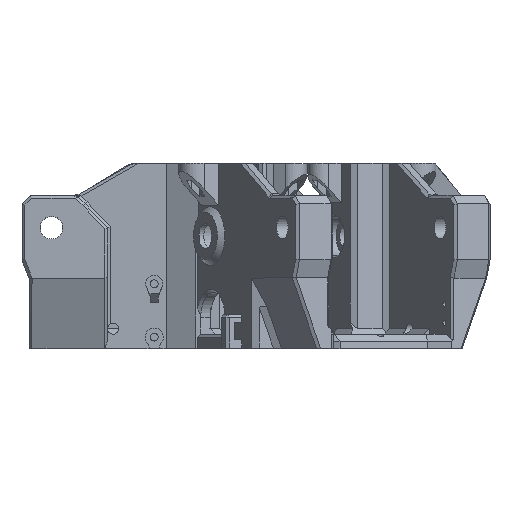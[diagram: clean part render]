
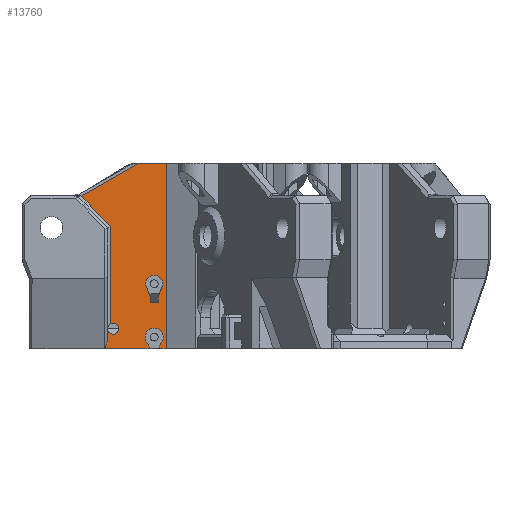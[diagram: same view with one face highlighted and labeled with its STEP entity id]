
A CAD part, top view. The second image highlights one B-rep face of the part: STEP entity #13760.
In plain terms, the highlighted planar face has unit normal (0, 0, 1).
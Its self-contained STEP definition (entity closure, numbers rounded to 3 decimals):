
#615=PLANE('',#14628);
#827=FACE_BOUND('',#2610,.T.);
#1006=CIRCLE('',#14629,2.);
#1007=CIRCLE('',#14630,3.25);
#1008=CIRCLE('',#14631,3.);
#1738=FACE_OUTER_BOUND('',#2609,.T.);
#2609=EDGE_LOOP('',(#12566,#12567,#12568,#12569,#12570,#12571,#12572,#12573,
#12574,#12575,#12576,#12577,#12578,#12579,#12580,#12581));
#2610=EDGE_LOOP('',(#12582,#12583,#12584,#12585,#12586,#12587));
#2956=LINE('',#19729,#4577);
#2960=LINE('',#19737,#4581);
#3469=LINE('',#21690,#5090);
#3688=LINE('',#22189,#5309);
#4021=LINE('',#23034,#5642);
#4025=LINE('',#23042,#5646);
#4038=LINE('',#23068,#5659);
#4065=LINE('',#23155,#5686);
#4068=LINE('',#23159,#5689);
#4286=LINE('',#23652,#5907);
#4290=LINE('',#23660,#5911);
#4294=LINE('',#23670,#5915);
#4296=LINE('',#23673,#5917);
#4297=LINE('',#23677,#5918);
#4298=LINE('',#23679,#5919);
#4299=LINE('',#23681,#5920);
#4300=LINE('',#23685,#5921);
#4301=LINE('',#23686,#5922);
#4302=LINE('',#23688,#5923);
#4577=VECTOR('',#15082,10.);
#4581=VECTOR('',#15086,10.);
#5090=VECTOR('',#15971,10.);
#5309=VECTOR('',#16400,10.);
#5642=VECTOR('',#17227,10.);
#5646=VECTOR('',#17233,10.);
#5659=VECTOR('',#17256,10.);
#5686=VECTOR('',#17301,10.);
#5689=VECTOR('',#17306,10.);
#5907=VECTOR('',#17788,10.);
#5911=VECTOR('',#17794,10.);
#5915=VECTOR('',#17804,10.);
#5917=VECTOR('',#17808,10.);
#5918=VECTOR('',#17813,10.);
#5919=VECTOR('',#17814,10.);
#5920=VECTOR('',#17815,10.);
#5921=VECTOR('',#17818,10.);
#5922=VECTOR('',#17819,10.);
#5923=VECTOR('',#17822,10.);
#6098=VERTEX_POINT('',#18324);
#6275=VERTEX_POINT('',#19726);
#6276=VERTEX_POINT('',#19728);
#6279=VERTEX_POINT('',#19734);
#6280=VERTEX_POINT('',#19736);
#6746=VERTEX_POINT('',#21687);
#6747=VERTEX_POINT('',#21689);
#7096=VERTEX_POINT('',#23031);
#7097=VERTEX_POINT('',#23033);
#7100=VERTEX_POINT('',#23041);
#7108=VERTEX_POINT('',#23067);
#7265=VERTEX_POINT('',#23649);
#7266=VERTEX_POINT('',#23651);
#7268=VERTEX_POINT('',#23657);
#7269=VERTEX_POINT('',#23659);
#7271=VERTEX_POINT('',#23667);
#7272=VERTEX_POINT('',#23669);
#7273=VERTEX_POINT('',#23675);
#7274=VERTEX_POINT('',#23678);
#7275=VERTEX_POINT('',#23680);
#7276=VERTEX_POINT('',#23682);
#7277=VERTEX_POINT('',#23684);
#7574=EDGE_CURVE('',#6276,#6275,#2956,.T.);
#7578=EDGE_CURVE('',#6280,#6279,#2960,.T.);
#8203=EDGE_CURVE('',#6747,#6746,#3469,.T.);
#8456=EDGE_CURVE('',#6747,#6275,#3688,.T.);
#8828=EDGE_CURVE('',#7096,#7097,#4021,.T.);
#8832=EDGE_CURVE('',#6280,#7100,#4025,.F.);
#8845=EDGE_CURVE('',#7097,#7108,#4038,.T.);
#8872=EDGE_CURVE('',#7108,#6098,#4065,.T.);
#8875=EDGE_CURVE('',#6098,#6746,#4068,.T.);
#9113=EDGE_CURVE('',#7266,#7265,#4286,.T.);
#9117=EDGE_CURVE('',#7269,#7268,#4290,.T.);
#9122=EDGE_CURVE('',#7272,#7271,#4294,.T.);
#9124=EDGE_CURVE('',#7265,#7269,#4296,.T.);
#9125=EDGE_CURVE('',#7096,#7273,#1006,.T.);
#9126=EDGE_CURVE('',#7273,#7100,#4297,.T.);
#9127=EDGE_CURVE('',#6279,#7274,#4298,.T.);
#9128=EDGE_CURVE('',#7274,#7275,#4299,.T.);
#9129=EDGE_CURVE('',#7275,#7276,#1007,.T.);
#9130=EDGE_CURVE('',#7276,#7277,#4300,.T.);
#9131=EDGE_CURVE('',#7277,#6276,#4301,.T.);
#9132=EDGE_CURVE('',#7268,#7272,#1008,.T.);
#9133=EDGE_CURVE('',#7271,#7266,#4302,.T.);
#12566=ORIENTED_EDGE('',*,*,#8828,.F.);
#12567=ORIENTED_EDGE('',*,*,#9125,.T.);
#12568=ORIENTED_EDGE('',*,*,#9126,.T.);
#12569=ORIENTED_EDGE('',*,*,#8832,.F.);
#12570=ORIENTED_EDGE('',*,*,#7578,.T.);
#12571=ORIENTED_EDGE('',*,*,#9127,.T.);
#12572=ORIENTED_EDGE('',*,*,#9128,.T.);
#12573=ORIENTED_EDGE('',*,*,#9129,.T.);
#12574=ORIENTED_EDGE('',*,*,#9130,.T.);
#12575=ORIENTED_EDGE('',*,*,#9131,.T.);
#12576=ORIENTED_EDGE('',*,*,#7574,.T.);
#12577=ORIENTED_EDGE('',*,*,#8456,.F.);
#12578=ORIENTED_EDGE('',*,*,#8203,.T.);
#12579=ORIENTED_EDGE('',*,*,#8875,.F.);
#12580=ORIENTED_EDGE('',*,*,#8872,.F.);
#12581=ORIENTED_EDGE('',*,*,#8845,.F.);
#12582=ORIENTED_EDGE('',*,*,#9117,.T.);
#12583=ORIENTED_EDGE('',*,*,#9132,.T.);
#12584=ORIENTED_EDGE('',*,*,#9122,.T.);
#12585=ORIENTED_EDGE('',*,*,#9133,.T.);
#12586=ORIENTED_EDGE('',*,*,#9113,.T.);
#12587=ORIENTED_EDGE('',*,*,#9124,.T.);
#13760=ADVANCED_FACE('',(#1738,#827),#615,.T.);
#14628=AXIS2_PLACEMENT_3D('',#23674,#17809,#17810);
#14629=AXIS2_PLACEMENT_3D('',#23676,#17811,#17812);
#14630=AXIS2_PLACEMENT_3D('',#23683,#17816,#17817);
#14631=AXIS2_PLACEMENT_3D('',#23687,#17820,#17821);
#15082=DIRECTION('',(1.,0.,0.));
#15086=DIRECTION('',(1.,0.,0.));
#15971=DIRECTION('',(-1.,0.,0.));
#16400=DIRECTION('',(0.,-1.,0.));
#17227=DIRECTION('',(0.,1.,0.));
#17233=DIRECTION('',(-0.348,-0.937,0.));
#17256=DIRECTION('',(-0.685,0.728,0.));
#17301=DIRECTION('',(-0.707,0.707,0.));
#17306=DIRECTION('',(0.867,0.498,0.));
#17788=DIRECTION('',(-1.,0.,0.));
#17794=DIRECTION('',(-0.342,0.94,0.));
#17804=DIRECTION('',(-0.342,-0.94,0.));
#17808=DIRECTION('',(0.,1.,0.));
#17809=DIRECTION('center_axis',(0.,0.,1.));
#17810=DIRECTION('ref_axis',(1.,0.,0.));
#17811=DIRECTION('center_axis',(0.,0.,-1.));
#17812=DIRECTION('ref_axis',(-1.,0.,0.));
#17813=DIRECTION('',(0.,-1.,0.));
#17814=DIRECTION('',(0.,1.,0.));
#17815=DIRECTION('',(-0.444,0.896,0.));
#17816=DIRECTION('center_axis',(0.,0.,-1.));
#17817=DIRECTION('ref_axis',(-1.,0.,0.));
#17818=DIRECTION('',(-0.444,-0.896,0.));
#17819=DIRECTION('',(0.,-1.,0.));
#17820=DIRECTION('center_axis',(0.,0.,-1.));
#17821=DIRECTION('ref_axis',(-1.,0.,0.));
#17822=DIRECTION('',(0.,-1.,0.));
#18324=CARTESIAN_POINT('',(10.63,11.284,0.));
#19726=CARTESIAN_POINT('',(41.,-43.,0.));
#19728=CARTESIAN_POINT('',(38.15,-43.,0.));
#19729=CARTESIAN_POINT('',(-8.,-43.,0.));
#19734=CARTESIAN_POINT('',(35.15,-43.,0.));
#19736=CARTESIAN_POINT('',(19.,-43.,0.));
#19737=CARTESIAN_POINT('',(-8.,-43.,0.));
#21687=CARTESIAN_POINT('',(31.006,23.,0.));
#21689=CARTESIAN_POINT('',(41.,23.,0.));
#21690=CARTESIAN_POINT('',(60.,23.,0.));
#22189=CARTESIAN_POINT('',(41.,5.287,0.));
#23031=CARTESIAN_POINT('',(21.,-34.268,0.));
#23033=CARTESIAN_POINT('',(21.,0.397,0.));
#23034=CARTESIAN_POINT('',(21.,-18.704,0.));
#23041=CARTESIAN_POINT('',(20.,-40.307,0.));
#23042=CARTESIAN_POINT('',(28.012,-18.734,0.));
#23067=CARTESIAN_POINT('',(12.718,9.196,0.));
#23068=CARTESIAN_POINT('',(21.767,-0.419,0.));
#23155=CARTESIAN_POINT('',(21.252,0.662,0.));
#23159=CARTESIAN_POINT('',(21.563,17.57,0.));
#23649=CARTESIAN_POINT('',(35.15,-26.598,0.));
#23651=CARTESIAN_POINT('',(38.15,-26.598,0.));
#23652=CARTESIAN_POINT('',(33.201,-26.598,0.));
#23657=CARTESIAN_POINT('',(33.832,-21.028,0.));
#23659=CARTESIAN_POINT('',(35.15,-24.648,0.));
#23660=CARTESIAN_POINT('',(32.452,-17.239,0.));
#23667=CARTESIAN_POINT('',(38.15,-24.648,0.));
#23669=CARTESIAN_POINT('',(39.468,-21.028,0.));
#23670=CARTESIAN_POINT('',(39.865,-19.939,0.));
#23673=CARTESIAN_POINT('',(35.15,-19.512,0.));
#23674=CARTESIAN_POINT('Origin',(28.253,-12.426,0.));
#23675=CARTESIAN_POINT('',(20.,-36.,0.));
#23676=CARTESIAN_POINT('Origin',(22.,-36.,0.));
#23677=CARTESIAN_POINT('',(20.,-6.213,0.));
#23678=CARTESIAN_POINT('',(35.15,-42.983,0.));
#23679=CARTESIAN_POINT('',(35.15,-27.713,0.));
#23680=CARTESIAN_POINT('',(34.274,-41.218,0.));
#23681=CARTESIAN_POINT('',(28.168,-28.908,0.));
#23682=CARTESIAN_POINT('',(39.026,-41.218,0.));
#23683=CARTESIAN_POINT('Origin',(36.65,-39.,0.));
#23684=CARTESIAN_POINT('',(38.15,-42.983,0.));
#23685=CARTESIAN_POINT('',(43.474,-32.251,0.));
#23686=CARTESIAN_POINT('',(38.15,-27.155,0.));
#23687=CARTESIAN_POINT('Origin',(36.65,-20.,0.));
#23688=CARTESIAN_POINT('',(38.15,-17.512,0.));
